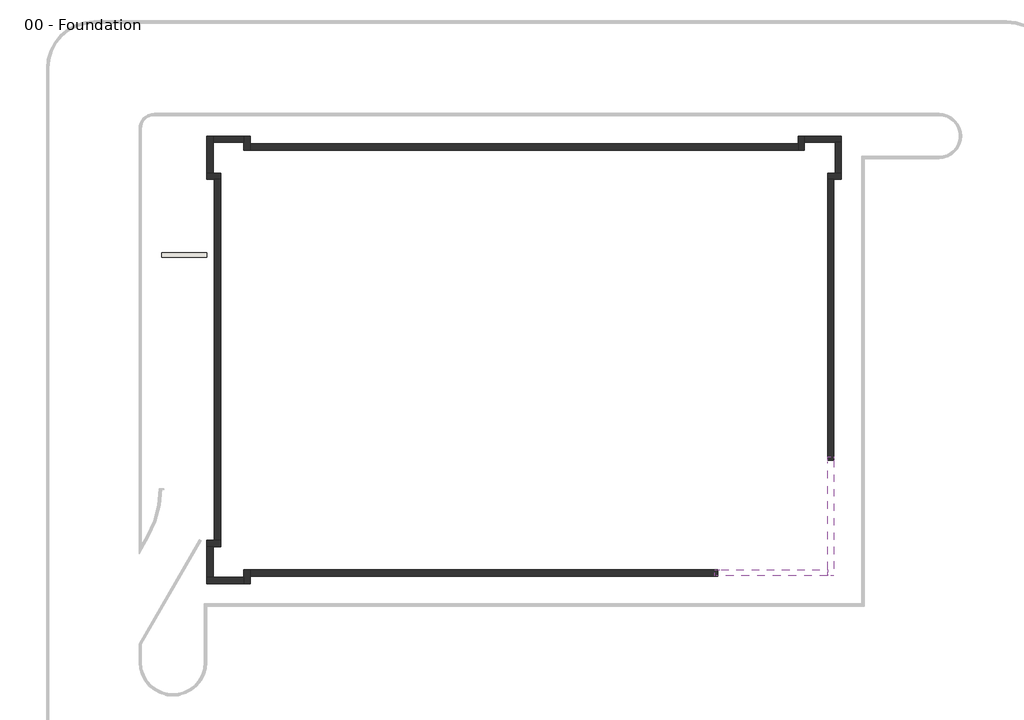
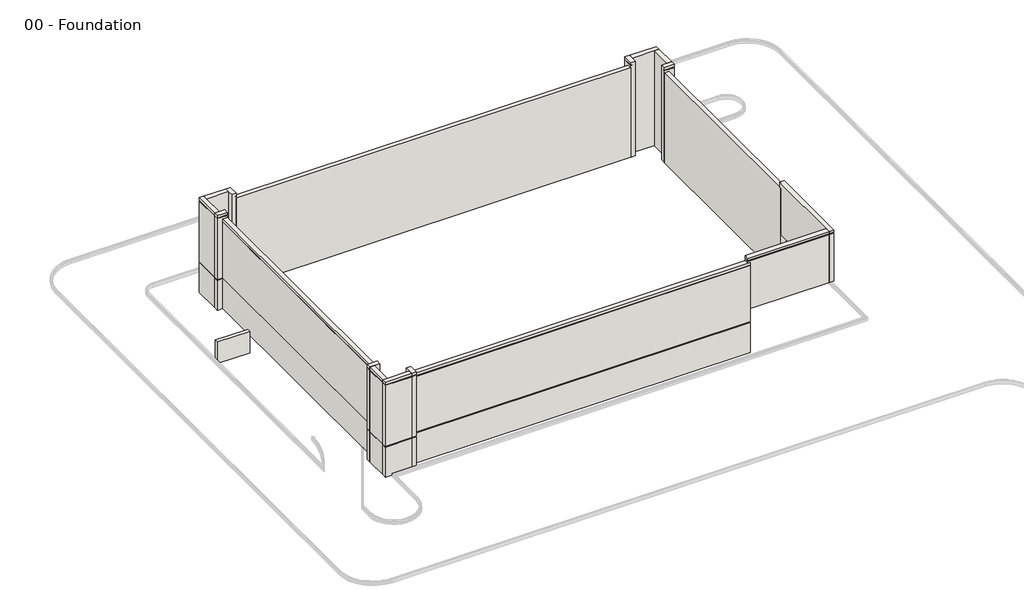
# One storey, part 1 of 2: 19 walls.
"""IFC4 building model written with IfcOpenShell, lengths in millimetres."""

from ifc_helpers import new_model, si_unit, frame, origin, place, context, project, spatial, polyline, outline, extrude, faceted_brep, element, save

model = new_model("IFC4")

# Units and contexts
model_context = context("Model", 3, world=origin())
ifc_project = project(units=[si_unit("LENGTHUNIT", "METRE", prefix="MILLI")], contexts=[model_context])

# Site, building, storey
site = spatial("IfcSite", under=ifc_project)
building = spatial("IfcBuilding", under=site)
storey = spatial("IfcBuildingStorey", under=building, Name="00 - Foundation", Elevation=-1250.0)

# Walls
placement = place(None, origin())
element("IfcWall", 1, ObjectType="Exterior - Render on Brick on Block @ Entry", at=placement, inside=storey, context=model_context, shape_type="Brep", body=[
    faceted_brep([(18351.5272279, -6696.4313057, 3000.0), (18351.5272279, -13977.9313057, 3000.0), (18351.5272279, -14406.9313057, 3000.0), (18351.5272279, -14406.9313057, 7700.0), (18351.5272279, -14331.9313057, 7700.0), (18351.5272279, -14331.9313057, 7775.0), (18351.5272279, -14406.9313057, 7775.0), (18351.5272279, -14406.9313057, 8000.0), (18351.5272279, -13977.9313057, 8000.0), (18351.5272279, -6910.9313057, 8000.0), (18351.5272279, -6481.9313057, 8000.0), (18351.5272279, -6481.9313057, 7775.0), (18351.5272279, -6556.9313057, 7775.0), (18351.5272279, -6556.9313057, 7700.0), (18351.5272279, -6481.9313057, 7700.0), (18351.5272279, -6481.9313057, 7500.0), (18351.5272279, -6696.4313057, 7500.0), (18780.5272279, -14406.9313057, 3000.0), (18780.5272279, -6696.4313057, 3000.0), (18780.5272279, -6696.4313057, 7200.0), (18780.5272279, -6696.4313057, 7275.0), (18780.5272279, -6696.4313057, 7500.0), (18780.5272279, -6481.9313057, 7500.0), (18780.5272279, -6481.9313057, 7700.0), (18780.5272279, -14406.9313057, 7700.0), (18780.5272279, -6481.9313057, 8000.0), (18780.5272279, -14406.9313057, 8000.0), (18780.5272279, -14406.9313057, 7775.0), (18780.5272279, -6481.9313057, 7775.0), (18705.5272279, -6556.9313057, 7700.0), (18705.5272279, -6556.9313057, 7775.0), (18705.5272279, -14331.9313057, 7775.0), (18705.5272279, -14331.9313057, 7700.0)], [[[0, 1, 2, 3, 4, 5, 6, 7, 8, 9, 10, 11, 12, 13, 14, 15, 16]], [[17, 18, 19, 20, 21, 22, 23, 24]], [[25, 26, 27, 28]], [[2, 1, 0, 18, 17]], [[10, 9, 8, 7, 26, 25]], [[29, 30, 31, 32]], [[2, 17, 24, 3]], [[26, 7, 6, 27]], [[31, 30, 12, 11, 28, 27, 6, 5]], [[29, 32, 4, 3, 24, 23, 14, 13]], [[30, 29, 13, 12]], [[32, 31, 5, 4]], [[18, 0, 16, 21, 20, 19]], [[22, 21, 16, 15]], [[10, 25, 28, 11]], [[22, 15, 14, 23]]]),
])
element("IfcWall", 2, ObjectType="Exterior - Render on Brick on Block @ Entry", at=placement, inside=storey, context=model_context, shape_type="Brep", body=[
    faceted_brep([(18351.5272279, -13977.9313057, 3000.0), (11070.0272279, -13977.9313057, 3000.0), (11070.0272279, -13977.9313057, 7500.0), (10855.5272279, -13977.9313057, 7500.0), (10855.5272279, -13977.9313057, 7700.0), (10930.5272279, -13977.9313057, 7700.0), (10930.5272279, -13977.9313057, 7775.0), (10855.5272279, -13977.9313057, 7775.0), (10855.5272279, -13977.9313057, 8000.0), (11284.5272279, -13977.9313057, 8000.0), (18351.5272279, -13977.9313057, 8000.0), (11070.0272279, -14406.9313057, 3000.0), (18351.5272279, -14406.9313057, 3000.0), (18351.5272279, -14406.9313057, 7700.0), (10855.5272279, -14406.9313057, 7700.0), (10855.5272279, -14406.9313057, 7500.0), (11070.0272279, -14406.9313057, 7500.0), (11070.0272279, -14406.9313057, 7275.0), (11070.0272279, -14406.9313057, 7200.0), (18351.5272279, -14406.9313057, 8000.0), (10855.5272279, -14406.9313057, 8000.0), (10855.5272279, -14406.9313057, 7775.0), (18351.5272279, -14406.9313057, 7775.0), (18351.5272279, -14331.9313057, 7700.0), (18351.5272279, -14331.9313057, 7775.0), (10930.5272279, -14331.9313057, 7775.0), (10930.5272279, -14331.9313057, 7700.0)], [[[0, 1, 2, 3, 4, 5, 6, 7, 8, 9, 10]], [[11, 12, 13, 14, 15, 16, 17, 18]], [[19, 20, 21, 22]], [[1, 0, 12, 11]], [[10, 9, 8, 20, 19]], [[23, 24, 25, 26]], [[0, 10, 19, 22, 24, 23, 13, 12]], [[22, 21, 7, 6, 25, 24]], [[14, 13, 23, 26, 5, 4]], [[26, 25, 6, 5]], [[1, 11, 18, 17, 16, 2]], [[3, 2, 16, 15]], [[20, 8, 7, 21]], [[3, 15, 14, 4]]]),
])
element("IfcWall", 3, ObjectType="Exterior - Render on Brick on Block", at=placement, inside=storey, context=model_context, shape_type="Brep", body=[
    faceted_brep([(11070.0272279, -13977.9313057, -1250.0), (-20031.4727721, -13977.9313057, -1250.0), (-20031.4727721, -13977.9313057, 7500.0), (10855.5272279, -13977.9313057, 7500.0), (11070.0272279, -13977.9313057, 7500.0), (11070.0272279, -13977.9313057, 3000.0), (11070.0272279, -14406.9313057, 7500.0), (-20031.4727721, -14406.9313057, 7500.0), (-20031.4727721, -14406.9313057, 7275.0), (11070.0272279, -14406.9313057, 7275.0), (-20031.4727721, -14406.9313057, -1250.0), (11070.0272279, -14406.9313057, -1250.0), (11070.0272279, -14406.9313057, 1675.0), (-20031.4727721, -14406.9313057, 1675.0), (-20031.4727721, -14406.9313057, 1750.0), (11070.0272279, -14406.9313057, 1750.0), (11070.0272279, -14406.9313057, 7200.0), (-20031.4727721, -14406.9313057, 7200.0), (11070.0272279, -14381.9313057, -1250.0), (-20031.4727721, -14381.9313057, -1250.0), (-20031.4727721, -14331.9313057, 1750.0), (11070.0272279, -14331.9313057, 1750.0), (11070.0272279, -14331.9313057, 1675.0), (-20031.4727721, -14331.9313057, 1675.0), (-20031.4727721, -14331.9313057, 7275.0), (11070.0272279, -14331.9313057, 7275.0), (11070.0272279, -14331.9313057, 7200.0), (-20031.4727721, -14331.9313057, 7200.0)], [[[0, 1, 2, 3, 4, 5]], [[6, 7, 8, 9]], [[10, 11, 12, 13]], [[14, 15, 16, 17]], [[4, 3, 2, 7, 6]], [[1, 0, 18, 19]], [[18, 11, 10, 19]], [[15, 14, 20, 21]], [[13, 12, 22, 23]], [[21, 20, 23, 22]], [[24, 25, 9, 8]], [[26, 27, 17, 16]], [[25, 24, 27, 26]], [[2, 1, 19, 10, 13, 23, 20, 14, 17, 27, 24, 8, 7]], [[4, 6, 9, 25, 26, 16, 15, 21, 22, 12, 11, 18, 0, 5]]]),
])
element("IfcWall", 4, ObjectType="Exterior - Render on Brick on Block", at=placement, inside=storey, context=model_context, shape_type="Brep", body=[
    faceted_brep([(-20460.4727721, -13977.9313057, -1250.0), (-20460.4727721, -14477.7313057, -1250.0), (-20460.4727721, -14906.7313057, -1250.0), (-20460.4727721, -14906.7313057, 1675.0), (-20460.4727721, -14831.7313057, 1675.0), (-20460.4727721, -14831.7313057, 1750.0), (-20460.4727721, -14906.7313057, 1750.0), (-20460.4727721, -14906.7313057, 7700.0), (-20460.4727721, -14831.7313057, 7700.0), (-20460.4727721, -14831.7313057, 7775.0), (-20460.4727721, -14906.7313057, 7775.0), (-20460.4727721, -14906.7313057, 8000.0), (-20460.4727721, -14477.7313057, 8000.0), (-20460.4727721, -13977.9313057, 8000.0), (-20031.4727721, -13977.9313057, 8000.0), (-20031.4727721, -14906.7313057, 8000.0), (-20031.4727721, -14906.7313057, 7775.0), (-20031.4727721, -13977.9313057, 7775.0), (-20031.4727721, -14906.7313057, -1250.0), (-20031.4727721, -14406.9313057, -1250.0), (-20031.4727721, -13977.9313057, -1250.0), (-20031.4727721, -13977.9313057, 7500.0), (-20031.4727721, -13977.9313057, 7700.0), (-20031.4727721, -14906.7313057, 7700.0), (-20031.4727721, -14906.7313057, 1750.0), (-20031.4727721, -14406.9313057, 1750.0), (-20031.4727721, -14331.9313057, 1750.0), (-20031.4727721, -14331.9313057, 1675.0), (-20031.4727721, -14406.9313057, 1675.0), (-20031.4727721, -14906.7313057, 1675.0), (-20056.4727721, -13977.9313057, -1250.0), (-20056.4727721, -14906.7313057, -1250.0), (-20106.4727721, -14331.9313057, 1675.0), (-20106.4727721, -14331.9313057, 1750.0), (-20106.4727721, -14831.7313057, 1750.0), (-20106.4727721, -14831.7313057, 1675.0), (-20106.4727721, -14831.7313057, 7775.0), (-20106.4727721, -13977.9313057, 7775.0), (-20106.4727721, -13977.9313057, 7700.0), (-20106.4727721, -14831.7313057, 7700.0)], [[[0, 1, 2, 3, 4, 5, 6, 7, 8, 9, 10, 11, 12, 13]], [[14, 15, 16, 17]], [[18, 19, 20, 21, 22, 23, 24, 25, 26, 27, 28, 29]], [[13, 12, 11, 15, 14]], [[2, 1, 0, 30, 31]], [[32, 33, 34, 35]], [[36, 37, 17, 16, 10, 9]], [[38, 39, 8, 7, 23, 22]], [[37, 36, 39, 38]], [[0, 13, 14, 17, 37, 38, 22, 21, 20, 30]], [[20, 19, 18, 31, 30]], [[34, 33, 26, 25, 24, 6, 5]], [[32, 35, 4, 3, 29, 28, 27]], [[33, 32, 27, 26]], [[15, 11, 10, 16]], [[2, 31, 18, 29, 3]], [[6, 24, 23, 7]], [[35, 34, 5, 4]], [[39, 36, 9, 8]]]),
])
element("IfcWall", 5, ObjectType="Exterior - Render on Brick on Block", at=placement, inside=storey, context=model_context, shape_type="Brep", body=[
    faceted_brep([(-20460.4727721, -14477.7313057, -1250.0), (-22490.4727721, -14477.7313057, -1250.0), (-22919.4727721, -14477.7313057, -1250.0), (-22919.4727721, -14477.7313057, 1675.0), (-22844.4727721, -14477.7313057, 1675.0), (-22844.4727721, -14477.7313057, 1750.0), (-22919.4727721, -14477.7313057, 1750.0), (-22919.4727721, -14477.7313057, 7700.0), (-22844.4727721, -14477.7313057, 7700.0), (-22844.4727721, -14477.7313057, 7775.0), (-22919.4727721, -14477.7313057, 7775.0), (-22919.4727721, -14477.7313057, 8000.0), (-22490.4727721, -14477.7313057, 8000.0), (-20460.4727721, -14477.7313057, 8000.0), (-20460.4727721, -14906.7313057, 8000.0), (-22919.4727721, -14906.7313057, 8000.0), (-22919.4727721, -14906.7313057, 7775.0), (-20460.4727721, -14906.7313057, 7775.0), (-22919.4727721, -14906.7313057, -1250.0), (-20460.4727721, -14906.7313057, -1250.0), (-20460.4727721, -14906.7313057, 1675.0), (-22919.4727721, -14906.7313057, 1675.0), (-22919.4727721, -14906.7313057, 1750.0), (-20460.4727721, -14906.7313057, 1750.0), (-20460.4727721, -14906.7313057, 7700.0), (-22919.4727721, -14906.7313057, 7700.0), (-20460.4727721, -14881.7313057, -1250.0), (-22919.4727721, -14881.7313057, -1250.0), (-22844.4727721, -14831.7313057, 1675.0), (-20460.4727721, -14831.7313057, 1675.0), (-20460.4727721, -14831.7313057, 1750.0), (-22844.4727721, -14831.7313057, 1750.0), (-22844.4727721, -14831.7313057, 7775.0), (-22844.4727721, -14831.7313057, 7700.0), (-20460.4727721, -14831.7313057, 7700.0), (-20460.4727721, -14831.7313057, 7775.0)], [[[0, 1, 2, 3, 4, 5, 6, 7, 8, 9, 10, 11, 12, 13]], [[14, 15, 16, 17]], [[18, 19, 20, 21]], [[22, 23, 24, 25]], [[13, 12, 11, 15, 14]], [[2, 1, 0, 26, 27]], [[28, 29, 30, 31]], [[32, 33, 34, 35]], [[0, 13, 14, 17, 35, 34, 24, 23, 30, 29, 20, 19, 26]], [[19, 18, 27, 26]], [[31, 30, 23, 22, 6, 5]], [[29, 28, 4, 3, 21, 20]], [[9, 32, 35, 17, 16, 10]], [[34, 33, 8, 7, 25, 24]], [[15, 11, 10, 16]], [[2, 27, 18, 21, 3]], [[6, 22, 25, 7]], [[28, 31, 5, 4]], [[33, 32, 9, 8]]]),
])
element("IfcWall", 6, ObjectType="Exterior - Render on Brick on Block", at=placement, inside=storey, context=model_context, shape_type="SweptSolid", body=[
    extrude(outline(polyline([(-1250.0, -22490.4727721), (8000.0, -22490.4727721), (8000.0, -22919.4727721), (7775.0, -22919.4727721), (7775.0, -22844.4727721), (7700.0, -22844.4727721), (7700.0, -22919.4727721), (1750.0, -22919.4727721), (1750.0, -22844.4727721), (1675.0, -22844.4727721), (1675.0, -22919.4727721), (-1250.0, -22919.4727721), (-1250.0, -22894.4727721), (-1250.0, -22490.4727721)])), frame((0.0, -14477.7313057, 0.0), z_axis=(0.0, 1.0, 0.0), x_axis=(0.0, 0.0, 1.0)), (0.0, 0.0, 1.0), 2030.0),
])
element("IfcWall", 7, ObjectType="Exterior - Render on Brick on Block", at=placement, inside=storey, context=model_context, shape_type="Brep", body=[
    faceted_brep([(-22919.4727721, -12447.7313057, -1250.0), (-22490.4727721, -12447.7313057, -1250.0), (-21990.4727721, -12447.7313057, -1250.0), (-21990.4727721, -12447.7313057, 8000.0), (-22490.4727721, -12447.7313057, 8000.0), (-22919.4727721, -12447.7313057, 8000.0), (-22919.4727721, -12447.7313057, 7775.0), (-22844.4727721, -12447.7313057, 7775.0), (-22844.4727721, -12447.7313057, 7700.0), (-22919.4727721, -12447.7313057, 7700.0), (-22919.4727721, -12447.7313057, 1750.0), (-22844.4727721, -12447.7313057, 1750.0), (-22844.4727721, -12447.7313057, 1675.0), (-22919.4727721, -12447.7313057, 1675.0), (-22919.4727721, -12018.7313057, 8000.0), (-21990.4727721, -12018.7313057, 8000.0), (-21990.4727721, -12018.7313057, 7775.0), (-22919.4727721, -12018.7313057, 7775.0), (-21990.4727721, -12018.7313057, -1250.0), (-22419.4727721, -12018.7313057, -1250.0), (-22919.4727721, -12018.7313057, -1250.0), (-22919.4727721, -12018.7313057, 1675.0), (-22419.4727721, -12018.7313057, 1675.0), (-22344.4727721, -12018.7313057, 1675.0), (-22344.4727721, -12018.7313057, 1750.0), (-22419.4727721, -12018.7313057, 1750.0), (-22919.4727721, -12018.7313057, 1750.0), (-22919.4727721, -12018.7313057, 7700.0), (-21990.4727721, -12018.7313057, 7700.0), (-21990.4727721, -12018.7313057, 7500.0), (-22919.4727721, -12043.7313057, -1250.0), (-21990.4727721, -12043.7313057, -1250.0), (-22844.4727721, -12093.7313057, 1675.0), (-22844.4727721, -12093.7313057, 1750.0), (-22344.4727721, -12093.7313057, 1750.0), (-22344.4727721, -12093.7313057, 1675.0), (-22844.4727721, -12093.7313057, 7775.0), (-21990.4727721, -12093.7313057, 7775.0), (-21990.4727721, -12093.7313057, 7700.0), (-22844.4727721, -12093.7313057, 7700.0)], [[[0, 1, 2, 3, 4, 5, 6, 7, 8, 9, 10, 11, 12, 13]], [[14, 15, 16, 17]], [[18, 19, 20, 21, 22, 23, 24, 25, 26, 27, 28, 29]], [[5, 4, 3, 15, 14]], [[2, 1, 0, 30, 31]], [[32, 33, 34, 35]], [[36, 37, 38, 39]], [[5, 14, 17, 6]], [[30, 0, 13, 21, 20]], [[26, 10, 9, 27]], [[20, 19, 18, 31, 30]], [[34, 33, 11, 10, 26, 25, 24]], [[32, 35, 23, 22, 21, 13, 12]], [[33, 32, 12, 11]], [[37, 36, 7, 6, 17, 16]], [[39, 38, 28, 27, 9, 8]], [[36, 39, 8, 7]], [[3, 2, 31, 18, 29, 28, 38, 37, 16, 15]], [[35, 34, 24, 23]]]),
])
element("IfcWall", 8, ObjectType="Exterior - Render on Brick on Block", at=placement, inside=storey, context=model_context, shape_type="SweptSolid", body=[
    extrude(outline(polyline([(-1250.0, -21990.4727721), (7500.0, -21990.4727721), (7500.0, -22419.4727721), (7275.0, -22419.4727721), (7275.0, -22344.4727721), (7200.0, -22344.4727721), (7200.0, -22419.4727721), (1750.0, -22419.4727721), (1750.0, -22344.4727721), (1675.0, -22344.4727721), (1675.0, -22419.4727721), (-1250.0, -22419.4727721), (-1250.0, -22394.4727721), (-1250.0, -21990.4727721)])), frame((0.0, -12018.7313057, 0.0), z_axis=(0.0, 1.0, 0.0), x_axis=(0.0, 0.0, 1.0)), (0.0, 0.0, 1.0), 23973.8),
])
element("IfcWall", 9, ObjectType="Exterior - Render on Brick on Block", at=placement, inside=storey, context=model_context, shape_type="Brep", body=[
    faceted_brep([(-21990.4727721, 12384.0686943, -1250.0), (-22490.4727721, 12384.0686943, -1250.0), (-22919.4727721, 12384.0686943, -1250.0), (-22919.4727721, 12384.0686943, 1675.0), (-22844.4727721, 12384.0686943, 1675.0), (-22844.4727721, 12384.0686943, 1750.0), (-22919.4727721, 12384.0686943, 1750.0), (-22919.4727721, 12384.0686943, 7700.0), (-22844.4727721, 12384.0686943, 7700.0), (-22844.4727721, 12384.0686943, 7775.0), (-22919.4727721, 12384.0686943, 7775.0), (-22919.4727721, 12384.0686943, 8000.0), (-22490.4727721, 12384.0686943, 8000.0), (-21990.4727721, 12384.0686943, 8000.0), (-21990.4727721, 11955.0686943, 8000.0), (-22919.4727721, 11955.0686943, 8000.0), (-22919.4727721, 11955.0686943, 7775.0), (-21990.4727721, 11955.0686943, 7775.0), (-22919.4727721, 11955.0686943, -1250.0), (-22419.4727721, 11955.0686943, -1250.0), (-21990.4727721, 11955.0686943, -1250.0), (-21990.4727721, 11955.0686943, 7500.0), (-21990.4727721, 11955.0686943, 7700.0), (-22919.4727721, 11955.0686943, 7700.0), (-22919.4727721, 11955.0686943, 1750.0), (-22419.4727721, 11955.0686943, 1750.0), (-22344.4727721, 11955.0686943, 1750.0), (-22344.4727721, 11955.0686943, 1675.0), (-22419.4727721, 11955.0686943, 1675.0), (-22919.4727721, 11955.0686943, 1675.0), (-21990.4727721, 11980.0686943, -1250.0), (-22919.4727721, 11980.0686943, -1250.0), (-22344.4727721, 12030.0686943, 1675.0), (-22344.4727721, 12030.0686943, 1750.0), (-22844.4727721, 12030.0686943, 1750.0), (-22844.4727721, 12030.0686943, 1675.0), (-22844.4727721, 12030.0686943, 7775.0), (-21990.4727721, 12030.0686943, 7775.0), (-21990.4727721, 12030.0686943, 7700.0), (-22844.4727721, 12030.0686943, 7700.0)], [[[0, 1, 2, 3, 4, 5, 6, 7, 8, 9, 10, 11, 12, 13]], [[14, 15, 16, 17]], [[18, 19, 20, 21, 22, 23, 24, 25, 26, 27, 28, 29]], [[13, 12, 11, 15, 14]], [[2, 1, 0, 30, 31]], [[32, 33, 34, 35]], [[36, 37, 17, 16, 10, 9]], [[38, 39, 8, 7, 23, 22]], [[37, 36, 39, 38]], [[0, 13, 14, 17, 37, 38, 22, 21, 20, 30]], [[20, 19, 18, 31, 30]], [[34, 33, 26, 25, 24, 6, 5]], [[32, 35, 4, 3, 29, 28, 27]], [[33, 32, 27, 26]], [[15, 11, 10, 16]], [[2, 31, 18, 29, 3]], [[6, 24, 23, 7]], [[35, 34, 5, 4]], [[39, 36, 9, 8]]]),
])
element("IfcWall", 10, ObjectType="Exterior - Render on Brick on Block", at=placement, inside=storey, context=model_context, shape_type="Brep", body=[
    faceted_brep([(-22490.4727721, 12384.0686943, -1250.0), (-22490.4727721, 14414.0686943, -1250.0), (-22490.4727721, 14843.0686943, -1250.0), (-22490.4727721, 14843.0686943, 1675.0), (-22490.4727721, 14768.0686943, 1675.0), (-22490.4727721, 14768.0686943, 1750.0), (-22490.4727721, 14843.0686943, 1750.0), (-22490.4727721, 14843.0686943, 7700.0), (-22490.4727721, 14768.0686943, 7700.0), (-22490.4727721, 14768.0686943, 7775.0), (-22490.4727721, 14843.0686943, 7775.0), (-22490.4727721, 14843.0686943, 8000.0), (-22490.4727721, 14414.0686943, 8000.0), (-22490.4727721, 12384.0686943, 8000.0), (-22919.4727721, 12384.0686943, 8000.0), (-22919.4727721, 14843.0686943, 8000.0), (-22919.4727721, 14843.0686943, 7775.0), (-22919.4727721, 12384.0686943, 7775.0), (-22919.4727721, 14843.0686943, -1250.0), (-22919.4727721, 12384.0686943, -1250.0), (-22919.4727721, 12384.0686943, 1675.0), (-22919.4727721, 14843.0686943, 1675.0), (-22919.4727721, 14843.0686943, 1750.0), (-22919.4727721, 12384.0686943, 1750.0), (-22919.4727721, 12384.0686943, 7700.0), (-22919.4727721, 14843.0686943, 7700.0), (-22894.4727721, 12384.0686943, -1250.0), (-22894.4727721, 14843.0686943, -1250.0), (-22844.4727721, 14768.0686943, 1675.0), (-22844.4727721, 12384.0686943, 1675.0), (-22844.4727721, 12384.0686943, 1750.0), (-22844.4727721, 14768.0686943, 1750.0), (-22844.4727721, 14768.0686943, 7775.0), (-22844.4727721, 14768.0686943, 7700.0), (-22844.4727721, 12384.0686943, 7700.0), (-22844.4727721, 12384.0686943, 7775.0)], [[[0, 1, 2, 3, 4, 5, 6, 7, 8, 9, 10, 11, 12, 13]], [[14, 15, 16, 17]], [[18, 19, 20, 21]], [[22, 23, 24, 25]], [[13, 12, 11, 15, 14]], [[2, 1, 0, 26, 27]], [[28, 29, 30, 31]], [[32, 33, 34, 35]], [[0, 13, 14, 17, 35, 34, 24, 23, 30, 29, 20, 19, 26]], [[19, 18, 27, 26]], [[31, 30, 23, 22, 6, 5]], [[29, 28, 4, 3, 21, 20]], [[9, 32, 35, 17, 16, 10]], [[34, 33, 8, 7, 25, 24]], [[15, 11, 10, 16]], [[2, 27, 18, 21, 3]], [[6, 22, 25, 7]], [[28, 31, 5, 4]], [[33, 32, 9, 8]]]),
])
element("IfcWall", 11, ObjectType="Exterior - Render on Brick on Block", at=placement, inside=storey, context=model_context, shape_type="SweptSolid", body=[
    extrude(outline(polyline([(14414.0686943, -1250.0), (14414.0686943, 8000.0), (14843.0686943, 8000.0), (14843.0686943, 7775.0), (14768.0686943, 7775.0), (14768.0686943, 7700.0), (14843.0686943, 7700.0), (14843.0686943, 1750.0), (14768.0686943, 1750.0), (14768.0686943, 1675.0), (14843.0686943, 1675.0), (14843.0686943, -1250.0), (14818.0686943, -1250.0), (14414.0686943, -1250.0)])), frame((-22490.4727721, 0.0, 0.0), z_axis=(1.0, 0.0, 0.0), x_axis=(0.0, 1.0, 0.0)), (0.0, 0.0, 1.0), 2030.0),
])
element("IfcWall", 12, ObjectType="Exterior - Render on Brick on Block", at=placement, inside=storey, context=model_context, shape_type="Brep", body=[
    faceted_brep([(-20460.4727721, 14843.0686943, -1250.0), (-20460.4727721, 14414.0686943, -1250.0), (-20460.4727721, 13914.0686943, -1250.0), (-20460.4727721, 13914.0686943, 8000.0), (-20460.4727721, 14414.0686943, 8000.0), (-20460.4727721, 14843.0686943, 8000.0), (-20460.4727721, 14843.0686943, 7775.0), (-20460.4727721, 14768.0686943, 7775.0), (-20460.4727721, 14768.0686943, 7700.0), (-20460.4727721, 14843.0686943, 7700.0), (-20460.4727721, 14843.0686943, 1750.0), (-20460.4727721, 14768.0686943, 1750.0), (-20460.4727721, 14768.0686943, 1675.0), (-20460.4727721, 14843.0686943, 1675.0), (-20031.4727721, 14843.0686943, 8000.0), (-20031.4727721, 13914.0686943, 8000.0), (-20031.4727721, 13914.0686943, 7775.0), (-20031.4727721, 14843.0686943, 7775.0), (-20031.4727721, 13914.0686943, -1250.0), (-20031.4727721, 14343.0686943, -1250.0), (-20031.4727721, 14843.0686943, -1250.0), (-20031.4727721, 14843.0686943, 1675.0), (-20031.4727721, 14343.0686943, 1675.0), (-20031.4727721, 14268.0686943, 1675.0), (-20031.4727721, 14268.0686943, 1750.0), (-20031.4727721, 14343.0686943, 1750.0), (-20031.4727721, 14843.0686943, 1750.0), (-20031.4727721, 14843.0686943, 7700.0), (-20031.4727721, 13914.0686943, 7700.0), (-20031.4727721, 13914.0686943, 7500.0), (-20056.4727721, 14843.0686943, -1250.0), (-20056.4727721, 13914.0686943, -1250.0), (-20106.4727721, 14768.0686943, 1675.0), (-20106.4727721, 14768.0686943, 1750.0), (-20106.4727721, 14268.0686943, 1750.0), (-20106.4727721, 14268.0686943, 1675.0), (-20106.4727721, 14768.0686943, 7775.0), (-20106.4727721, 13914.0686943, 7775.0), (-20106.4727721, 13914.0686943, 7700.0), (-20106.4727721, 14768.0686943, 7700.0)], [[[0, 1, 2, 3, 4, 5, 6, 7, 8, 9, 10, 11, 12, 13]], [[14, 15, 16, 17]], [[18, 19, 20, 21, 22, 23, 24, 25, 26, 27, 28, 29]], [[5, 4, 3, 15, 14]], [[2, 1, 0, 30, 31]], [[32, 33, 34, 35]], [[36, 37, 38, 39]], [[5, 14, 17, 6]], [[30, 0, 13, 21, 20]], [[26, 10, 9, 27]], [[20, 19, 18, 31, 30]], [[34, 33, 11, 10, 26, 25, 24]], [[32, 35, 23, 22, 21, 13, 12]], [[33, 32, 12, 11]], [[37, 36, 7, 6, 17, 16]], [[39, 38, 28, 27, 9, 8]], [[36, 39, 8, 7]], [[3, 2, 31, 18, 29, 28, 38, 37, 16, 15]], [[35, 34, 24, 23]]]),
])
element("IfcWall", 13, ObjectType="Exterior - Render on Brick on Block", at=placement, inside=storey, context=model_context, shape_type="SweptSolid", body=[
    extrude(outline(polyline([(13914.0686943, -1250.0), (13914.0686943, 7500.0), (14343.0686943, 7500.0), (14343.0686943, 7275.0), (14268.0686943, 7275.0), (14268.0686943, 7200.0), (14343.0686943, 7200.0), (14343.0686943, 1750.0), (14268.0686943, 1750.0), (14268.0686943, 1675.0), (14343.0686943, 1675.0), (14343.0686943, -1250.0), (14318.0686943, -1250.0), (13914.0686943, -1250.0)])), frame((-20031.4727721, 0.0, 0.0), z_axis=(1.0, 0.0, 0.0), x_axis=(0.0, 1.0, 0.0)), (0.0, 0.0, 1.0), 36424.0),
])
element("IfcWall", 14, ObjectType="Exterior - Render on Brick on Block", at=placement, inside=storey, context=model_context, shape_type="Brep", body=[
    faceted_brep([(16821.5272279, 13914.0686943, -1250.0), (16821.5272279, 14414.0686943, -1250.0), (16821.5272279, 14843.0686943, -1250.0), (16821.5272279, 14843.0686943, 1675.0), (16821.5272279, 14768.0686943, 1675.0), (16821.5272279, 14768.0686943, 1750.0), (16821.5272279, 14843.0686943, 1750.0), (16821.5272279, 14843.0686943, 7700.0), (16821.5272279, 14768.0686943, 7700.0), (16821.5272279, 14768.0686943, 7775.0), (16821.5272279, 14843.0686943, 7775.0), (16821.5272279, 14843.0686943, 8000.0), (16821.5272279, 14414.0686943, 8000.0), (16821.5272279, 13914.0686943, 8000.0), (16392.5272279, 13914.0686943, 8000.0), (16392.5272279, 14843.0686943, 8000.0), (16392.5272279, 14843.0686943, 7775.0), (16392.5272279, 13914.0686943, 7775.0), (16392.5272279, 14843.0686943, -1250.0), (16392.5272279, 14343.0686943, -1250.0), (16392.5272279, 13914.0686943, -1250.0), (16392.5272279, 13914.0686943, 7500.0), (16392.5272279, 13914.0686943, 7700.0), (16392.5272279, 14843.0686943, 7700.0), (16392.5272279, 14843.0686943, 1750.0), (16392.5272279, 14343.0686943, 1750.0), (16392.5272279, 14268.0686943, 1750.0), (16392.5272279, 14268.0686943, 1675.0), (16392.5272279, 14343.0686943, 1675.0), (16392.5272279, 14843.0686943, 1675.0), (16417.5272279, 13914.0686943, -1250.0), (16417.5272279, 14843.0686943, -1250.0), (16467.5272279, 14268.0686943, 1675.0), (16467.5272279, 14268.0686943, 1750.0), (16467.5272279, 14768.0686943, 1750.0), (16467.5272279, 14768.0686943, 1675.0), (16467.5272279, 14768.0686943, 7775.0), (16467.5272279, 13914.0686943, 7775.0), (16467.5272279, 13914.0686943, 7700.0), (16467.5272279, 14768.0686943, 7700.0)], [[[0, 1, 2, 3, 4, 5, 6, 7, 8, 9, 10, 11, 12, 13]], [[14, 15, 16, 17]], [[18, 19, 20, 21, 22, 23, 24, 25, 26, 27, 28, 29]], [[13, 12, 11, 15, 14]], [[2, 1, 0, 30, 31]], [[32, 33, 34, 35]], [[36, 37, 17, 16, 10, 9]], [[38, 39, 8, 7, 23, 22]], [[37, 36, 39, 38]], [[0, 13, 14, 17, 37, 38, 22, 21, 20, 30]], [[20, 19, 18, 31, 30]], [[34, 33, 26, 25, 24, 6, 5]], [[32, 35, 4, 3, 29, 28, 27]], [[33, 32, 27, 26]], [[15, 11, 10, 16]], [[2, 31, 18, 29, 3]], [[6, 24, 23, 7]], [[35, 34, 5, 4]], [[39, 36, 9, 8]]]),
])
element("IfcWall", 15, ObjectType="Exterior - Render on Brick on Block", at=placement, inside=storey, context=model_context, shape_type="Brep", body=[
    faceted_brep([(16821.5272279, 14414.0686943, -1250.0), (18851.5272279, 14414.0686943, -1250.0), (19280.5272279, 14414.0686943, -1250.0), (19280.5272279, 14414.0686943, 1675.0), (19205.5272279, 14414.0686943, 1675.0), (19205.5272279, 14414.0686943, 1750.0), (19280.5272279, 14414.0686943, 1750.0), (19280.5272279, 14414.0686943, 7700.0), (19205.5272279, 14414.0686943, 7700.0), (19205.5272279, 14414.0686943, 7775.0), (19280.5272279, 14414.0686943, 7775.0), (19280.5272279, 14414.0686943, 8000.0), (18851.5272279, 14414.0686943, 8000.0), (16821.5272279, 14414.0686943, 8000.0), (16821.5272279, 14843.0686943, 8000.0), (19280.5272279, 14843.0686943, 8000.0), (19280.5272279, 14843.0686943, 7775.0), (16821.5272279, 14843.0686943, 7775.0), (19280.5272279, 14843.0686943, -1250.0), (16821.5272279, 14843.0686943, -1250.0), (16821.5272279, 14843.0686943, 1675.0), (19280.5272279, 14843.0686943, 1675.0), (19280.5272279, 14843.0686943, 1750.0), (16821.5272279, 14843.0686943, 1750.0), (16821.5272279, 14843.0686943, 7700.0), (19280.5272279, 14843.0686943, 7700.0), (16821.5272279, 14818.0686943, -1250.0), (19280.5272279, 14818.0686943, -1250.0), (19205.5272279, 14768.0686943, 1675.0), (16821.5272279, 14768.0686943, 1675.0), (16821.5272279, 14768.0686943, 1750.0), (19205.5272279, 14768.0686943, 1750.0), (19205.5272279, 14768.0686943, 7775.0), (19205.5272279, 14768.0686943, 7700.0), (16821.5272279, 14768.0686943, 7700.0), (16821.5272279, 14768.0686943, 7775.0)], [[[0, 1, 2, 3, 4, 5, 6, 7, 8, 9, 10, 11, 12, 13]], [[14, 15, 16, 17]], [[18, 19, 20, 21]], [[22, 23, 24, 25]], [[13, 12, 11, 15, 14]], [[2, 1, 0, 26, 27]], [[28, 29, 30, 31]], [[32, 33, 34, 35]], [[0, 13, 14, 17, 35, 34, 24, 23, 30, 29, 20, 19, 26]], [[19, 18, 27, 26]], [[31, 30, 23, 22, 6, 5]], [[29, 28, 4, 3, 21, 20]], [[9, 32, 35, 17, 16, 10]], [[34, 33, 8, 7, 25, 24]], [[15, 11, 10, 16]], [[2, 27, 18, 21, 3]], [[6, 22, 25, 7]], [[28, 31, 5, 4]], [[33, 32, 9, 8]]]),
])
element("IfcWall", 16, ObjectType="Exterior - Render on Brick on Block", at=placement, inside=storey, context=model_context, shape_type="SweptSolid", body=[
    extrude(outline(polyline([(8000.0, 18851.5272279), (-1250.0, 18851.5272279), (-1250.0, 19255.5272279), (-1250.0, 19280.5272279), (1675.0, 19280.5272279), (1675.0, 19205.5272279), (1750.0, 19205.5272279), (1750.0, 19280.5272279), (7700.0, 19280.5272279), (7700.0, 19205.5272279), (7775.0, 19205.5272279), (7775.0, 19280.5272279), (8000.0, 19280.5272279), (8000.0, 18851.5272279)])), frame((0.0, 12384.0686943, 0.0), z_axis=(0.0, 1.0, 0.0), x_axis=(0.0, 0.0, 1.0)), (0.0, 0.0, 1.0), 2030.0),
])
element("IfcWall", 17, ObjectType="Exterior - Render on Brick on Block", at=placement, inside=storey, context=model_context, shape_type="Brep", body=[
    faceted_brep([(19280.5272279, 12384.0686943, -1250.0), (18851.5272279, 12384.0686943, -1250.0), (18351.5272279, 12384.0686943, -1250.0), (18351.5272279, 12384.0686943, 8000.0), (18851.5272279, 12384.0686943, 8000.0), (19280.5272279, 12384.0686943, 8000.0), (19280.5272279, 12384.0686943, 7775.0), (19205.5272279, 12384.0686943, 7775.0), (19205.5272279, 12384.0686943, 7700.0), (19280.5272279, 12384.0686943, 7700.0), (19280.5272279, 12384.0686943, 1750.0), (19205.5272279, 12384.0686943, 1750.0), (19205.5272279, 12384.0686943, 1675.0), (19280.5272279, 12384.0686943, 1675.0), (19280.5272279, 11955.0686943, 8000.0), (18351.5272279, 11955.0686943, 8000.0), (18351.5272279, 11955.0686943, 7775.0), (19280.5272279, 11955.0686943, 7775.0), (18351.5272279, 11955.0686943, -1250.0), (18780.5272279, 11955.0686943, -1250.0), (19280.5272279, 11955.0686943, -1250.0), (19280.5272279, 11955.0686943, 1675.0), (18780.5272279, 11955.0686943, 1675.0), (18705.5272279, 11955.0686943, 1675.0), (18705.5272279, 11955.0686943, 1750.0), (18780.5272279, 11955.0686943, 1750.0), (19280.5272279, 11955.0686943, 1750.0), (19280.5272279, 11955.0686943, 7700.0), (18351.5272279, 11955.0686943, 7700.0), (18351.5272279, 11955.0686943, 7500.0), (19280.5272279, 11980.0686943, -1250.0), (18351.5272279, 11980.0686943, -1250.0), (19205.5272279, 12030.0686943, 1675.0), (19205.5272279, 12030.0686943, 1750.0), (18705.5272279, 12030.0686943, 1750.0), (18705.5272279, 12030.0686943, 1675.0), (19205.5272279, 12030.0686943, 7775.0), (18351.5272279, 12030.0686943, 7775.0), (18351.5272279, 12030.0686943, 7700.0), (19205.5272279, 12030.0686943, 7700.0)], [[[0, 1, 2, 3, 4, 5, 6, 7, 8, 9, 10, 11, 12, 13]], [[14, 15, 16, 17]], [[18, 19, 20, 21, 22, 23, 24, 25, 26, 27, 28, 29]], [[5, 4, 3, 15, 14]], [[2, 1, 0, 30, 31]], [[32, 33, 34, 35]], [[36, 37, 38, 39]], [[5, 14, 17, 6]], [[30, 0, 13, 21, 20]], [[26, 10, 9, 27]], [[20, 19, 18, 31, 30]], [[34, 33, 11, 10, 26, 25, 24]], [[32, 35, 23, 22, 21, 13, 12]], [[33, 32, 12, 11]], [[37, 36, 7, 6, 17, 16]], [[39, 38, 28, 27, 9, 8]], [[36, 39, 8, 7]], [[3, 2, 31, 18, 29, 28, 38, 37, 16, 15]], [[35, 34, 24, 23]]]),
])
element("IfcWall", 18, ObjectType="Exterior - Render on Brick on Block", at=placement, inside=storey, context=model_context, shape_type="Brep", body=[
    faceted_brep([(18351.5272279, 11955.0686943, -1250.0), (18351.5272279, -6696.4313057, -1250.0), (18351.5272279, -6696.4313057, 3000.0), (18351.5272279, -6696.4313057, 7500.0), (18351.5272279, -6481.9313057, 7500.0), (18351.5272279, 11955.0686943, 7500.0), (18780.5272279, 11955.0686943, 7500.0), (18780.5272279, -6696.4313057, 7500.0), (18780.5272279, -6696.4313057, 7275.0), (18780.5272279, 11955.0686943, 7275.0), (18780.5272279, -6696.4313057, -1250.0), (18780.5272279, 11955.0686943, -1250.0), (18780.5272279, 11955.0686943, 1675.0), (18780.5272279, -6696.4313057, 1675.0), (18780.5272279, -6696.4313057, 1750.0), (18780.5272279, 11955.0686943, 1750.0), (18780.5272279, 11955.0686943, 7200.0), (18780.5272279, -6696.4313057, 7200.0), (18755.5272279, 11955.0686943, -1250.0), (18755.5272279, -6696.4313057, -1250.0), (18705.5272279, -6696.4313057, 1675.0), (18705.5272279, 11955.0686943, 1675.0), (18705.5272279, 11955.0686943, 1750.0), (18705.5272279, -6696.4313057, 1750.0), (18705.5272279, -6696.4313057, 7275.0), (18705.5272279, 11955.0686943, 7275.0), (18705.5272279, 11955.0686943, 7200.0), (18705.5272279, -6696.4313057, 7200.0)], [[[0, 1, 2, 3, 4, 5]], [[6, 7, 8, 9]], [[10, 11, 12, 13]], [[14, 15, 16, 17]], [[5, 4, 3, 7, 6]], [[1, 0, 18, 19]], [[20, 21, 22, 23]], [[24, 25, 9, 8]], [[26, 27, 17, 16]], [[25, 24, 27, 26]], [[0, 5, 6, 9, 25, 26, 16, 15, 22, 21, 12, 11, 18]], [[11, 10, 19, 18]], [[23, 22, 15, 14]], [[21, 20, 13, 12]], [[7, 3, 2, 1, 19, 10, 13, 20, 23, 14, 17, 27, 24, 8]]]),
])
element("IfcWall", 19, ObjectType="Foundation - 300mm Concrete", at=placement, inside=storey, context=model_context, shape_type="SweptSolid", body=[
    extrude(outline(polyline([(-25919.4727721, 7072.0686943), (-22919.4727721, 7072.0686943), (-22919.4727721, 6772.0686943), (-25919.4727721, 6772.0686943), (-25919.4727721, 7072.0686943)])), frame((0.0, 0.0, -2260.1184672), z_axis=(0.0, 0.0, 1.0), x_axis=(1.0, 0.0, 0.0)), (0.0, 0.0, 1.0), 2110.1184672),
])

save(model, "model.ifc")
